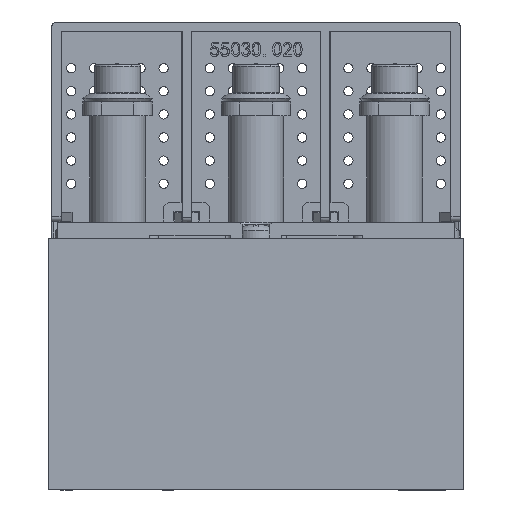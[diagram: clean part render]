
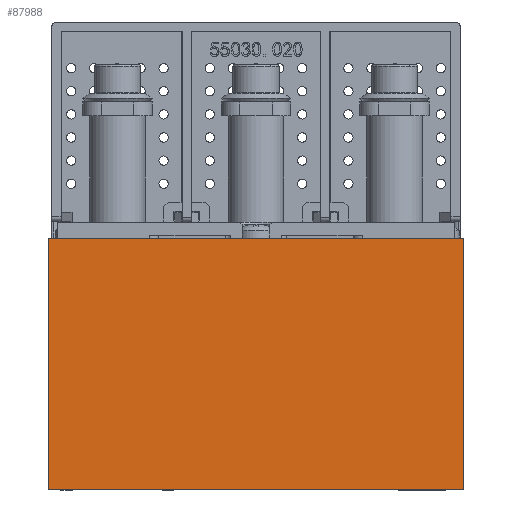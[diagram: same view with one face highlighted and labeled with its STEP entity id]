
A CAD part, left-side view. The second image highlights one B-rep face of the part: STEP entity #87988.
In plain terms, the highlighted planar face has unit normal (-1, 0, 0).
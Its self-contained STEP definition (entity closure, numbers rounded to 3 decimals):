
#2425 = CARTESIAN_POINT ( 'NONE',  ( -124.11, 50.463, 165.85 ) ) ;
#6364 = EDGE_CURVE ( 'NONE', #50720, #76012, #10625, .T. ) ;
#6646 = ORIENTED_EDGE ( 'NONE', *, *, #71019, .T. ) ;
#7557 = DIRECTION ( 'NONE',  ( 0., 0., -1. ) ) ;
#10625 = LINE ( 'NONE', #82125, #70115 ) ;
#11096 = DIRECTION ( 'NONE',  ( 0., -1., 0. ) ) ;
#13996 = CARTESIAN_POINT ( 'NONE',  ( -124.11, -39.537, 165.85 ) ) ;
#19445 = EDGE_CURVE ( 'NONE', #76012, #65516, #63375, .T. ) ;
#28532 = PLANE ( 'NONE',  #44432 ) ;
#29368 = EDGE_CURVE ( 'NONE', #67890, #65516, #94838, .T. ) ;
#33917 = ORIENTED_EDGE ( 'NONE', *, *, #19445, .F. ) ;
#35540 = DIRECTION ( 'NONE',  ( 0., 0., 1. ) ) ;
#36552 = ORIENTED_EDGE ( 'NONE', *, *, #29368, .T. ) ;
#43945 = VECTOR ( 'NONE', #7557, 1000. ) ;
#44432 = AXIS2_PLACEMENT_3D ( 'NONE', #71965, #94008, #35540 ) ;
#45687 = VECTOR ( 'NONE', #11096, 1000. ) ;
#45810 = VECTOR ( 'NONE', #64851, 1000. ) ;
#49314 = CARTESIAN_POINT ( 'NONE',  ( -124.11, -39.537, 220.35 ) ) ;
#50720 = VERTEX_POINT ( 'NONE', #85421 ) ;
#53629 = CARTESIAN_POINT ( 'NONE',  ( -124.11, 50.463, 165.85 ) ) ;
#56127 = ORIENTED_EDGE ( 'NONE', *, *, #6364, .F. ) ;
#56839 = CARTESIAN_POINT ( 'NONE',  ( -124.11, 50.463, 165.85 ) ) ;
#59295 = CARTESIAN_POINT ( 'NONE',  ( -124.11, -39.537, 165.85 ) ) ;
#63375 = LINE ( 'NONE', #13996, #43945 ) ;
#64851 = DIRECTION ( 'NONE',  ( 0., 0., -1. ) ) ;
#65240 = LINE ( 'NONE', #56839, #45810 ) ;
#65516 = VERTEX_POINT ( 'NONE', #59295 ) ;
#67890 = VERTEX_POINT ( 'NONE', #53629 ) ;
#70115 = VECTOR ( 'NONE', #88872, 1000. ) ;
#70495 = FACE_OUTER_BOUND ( 'NONE', #86482, .T. ) ;
#71019 = EDGE_CURVE ( 'NONE', #50720, #67890, #65240, .T. ) ;
#71965 = CARTESIAN_POINT ( 'NONE',  ( -124.11, 50.463, 165.85 ) ) ;
#76012 = VERTEX_POINT ( 'NONE', #49314 ) ;
#82125 = CARTESIAN_POINT ( 'NONE',  ( -124.11, 0., 220.35 ) ) ;
#85421 = CARTESIAN_POINT ( 'NONE',  ( -124.11, 50.463, 220.35 ) ) ;
#86482 = EDGE_LOOP ( 'NONE', ( #36552, #33917, #56127, #6646 ) ) ;
#87988 = ADVANCED_FACE ( 'NONE', ( #70495 ), #28532, .T. ) ;
#88872 = DIRECTION ( 'NONE',  ( 0., -1., 0. ) ) ;
#94008 = DIRECTION ( 'NONE',  ( -1., 0., 0. ) ) ;
#94838 = LINE ( 'NONE', #2425, #45687 ) ;
